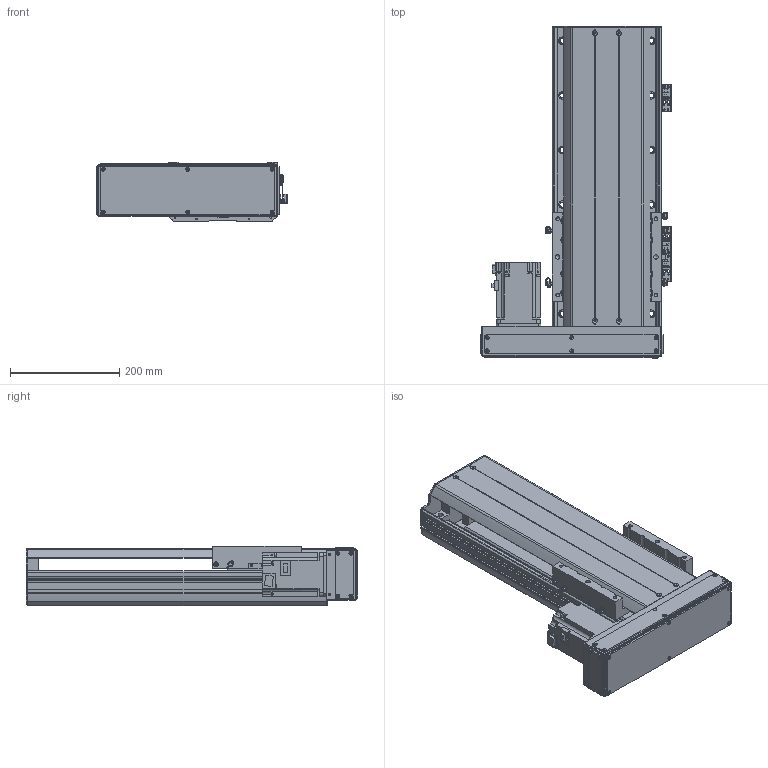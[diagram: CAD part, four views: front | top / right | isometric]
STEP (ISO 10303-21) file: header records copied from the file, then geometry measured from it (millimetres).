
FILE_DESCRIPTION(/* description */ ('MANUFACTURE'),/* implementation_level */ '2;1');
FILE_NAME(/* name */ '\\192.168.0.160\disk1\HAN SHIN Master\B-설계부문\C-표준\B-2024년\BC02-표준도면\+로봇 개선표준도면\표준 승인도 작업 폴더\3D\HG200\HG200병렬\좌병렬\HG200-L70-N-0300-R10.stp',/* time_stamp */ '2024-02-23T15:17:15+09:00',/* author */ ('User'),/* organization */ (''),/* preprocessor_version */ 'ST-DEVELOPER v18.1',/* originating_system */ 'Autodesk Inventor 2022',/* authorisation */ 'LIP');
FILE_SCHEMA (('AUTOMOTIVE_DESIGN { 1 0 10303 214 3 1 1 }'));
Products named in the file (22): HG200-L70-N-0500-R10; HR200 S BASE-개선; HR180 FRONT BLOCK; HR180 FRONT BLOCK_1; HR200 FRONT COVER; HR120 STOPPER; HR200 SENSOR DOG; HR200 S UPCOVER; HR200 TABLE (W,N); 750W MOTOR PLATE; HG200 750W LR MOTOR PLATE-사출; hg-kr73_; 화살표; hsr_ftht_A-M6F_grease_nipple_joint; NIPPLE CAP(신규); HR160 400W LR BELT COVER; HR200 ACRYL COVER -1; HR200 ACRYL COVER -1_1; HR200 ACRYL COVER -1_2; HG200 BOTTOM COVER; SENSOR BRK(EE-SX674A); EE_SX674A
Assembly tree (36 placements, depth 2):
  HG200-L70-N-0500-R10
    HR200 S BASE-개선
    HR180 FRONT BLOCK
    HR180 FRONT BLOCK_1
    HR200 FRONT COVER
    HR120 STOPPER  x2
    HR200 SENSOR DOG
    SENSOR BRK(EE-SX674A)  x3
    EE_SX674A  x3
    HR200 S UPCOVER
    HR200 TABLE (W,N)
    750W MOTOR PLATE
    HG200 750W LR MOTOR PLATE-사출
    hg-kr73_
    화살표  x2
    hsr_ftht_A-M6F_grease_nipple_joint  x5
    NIPPLE CAP(신규)  x5
    HR160 400W LR BELT COVER
    HR200 ACRYL COVER -1
    HR200 ACRYL COVER -1_1
    HR200 ACRYL COVER -1_2  x2
    HG200 BOTTOM COVER
Bounding box: 351 x 608 x 109 mm (x, y, z)
Volume: 5093287.9 mm3; surface area: 1371177.6 mm2
Topology: 36 solids, 36 shells, 3819 faces, 10724 edges, 7078 vertices
Faces by surface type: plane 2674, cylinder 828, cone 223, sphere 44, torus 30, bspline 20
Full cylindrical faces by diameter (mm): 2.459 x50, 3 x10, 3.242 x18, 3.4 x20, 3.5 x6, 4 x6, 4.134 x10, 4.5 x14, 4.917 x48, 5 x20, 5.5 x5, 5.6 x5, 5.9 x4, 6 x11, 6.5 x10, 6.6 x28, 6.647 x22, 7 x4, 7.6 x4, 8 x4, 9 x24, 9.5 x1, 11 x28, 14 x12, 19 x1, 25 x1, 27 x1, 30 x1, 32 x1, 38 x1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
Entity records: 107680 total; most frequent: CARTESIAN_POINT 20541, ORIENTED_EDGE 18112, DIRECTION 16966, EDGE_CURVE 9056, LINE 7332, VECTOR 7332, VERTEX_POINT 6046, AXIS2_PLACEMENT_3D 4817
